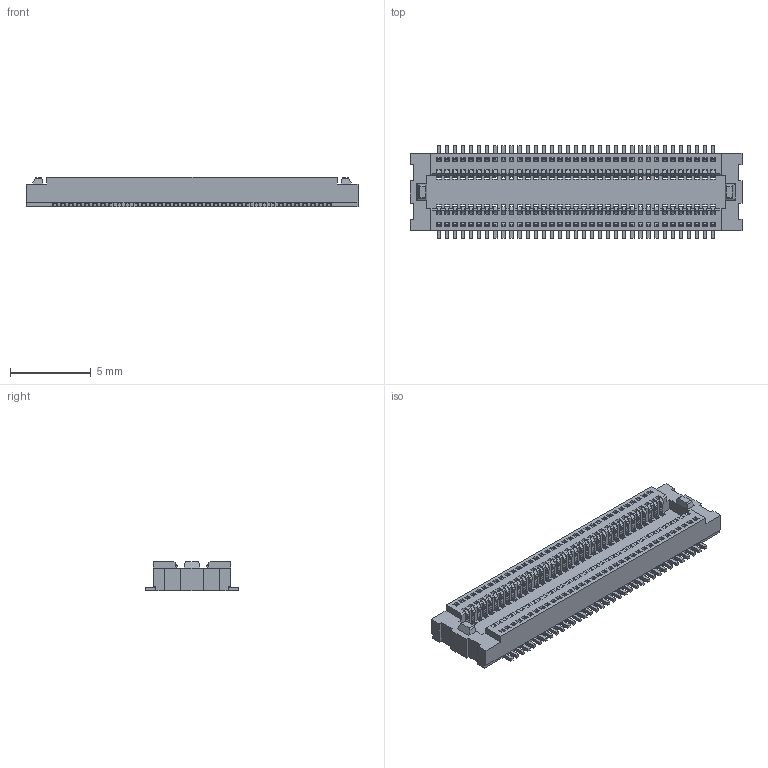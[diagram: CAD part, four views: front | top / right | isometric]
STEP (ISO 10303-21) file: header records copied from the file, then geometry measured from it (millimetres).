
FILE_DESCRIPTION(('CATIA V5 STEP Exchange'),'2;1');
FILE_NAME('F:\黄富鸿\板对板\0.5 单槽\无柱\母座\H1.85\HC-PBB05-1-70-F-H1.85-G1-R-06 (BTB0.5 单槽 母座 立贴 编带)-HCTL.stp','2026-01-21T08:03:54+00:00',('none'),('none'),'CATIA Version 5 Release 20 GA (IN-10)','CATIA V5 STEP AP203','none');
FILE_SCHEMA(('CONFIG_CONTROL_DESIGN'));
Products named in the file (1): Part2
Bounding box: 20.6 x 5.76 x 1.85 mm (x, y, z)
Volume: 111.9 mm3; surface area: 897.6 mm2
Topology: 71 solids, 71 shells, 3134 faces, 9602 edges, 6400 vertices
Faces by surface type: plane 2150, cylinder 984
Entity records: 91018 total; most frequent: ORIENTED_EDGE 19204, CARTESIAN_POINT 16323, DIRECTION 10078, EDGE_CURVE 9602, VECTOR 7634, LINE 7634, VERTEX_POINT 6400, EDGE_LOOP 3204
